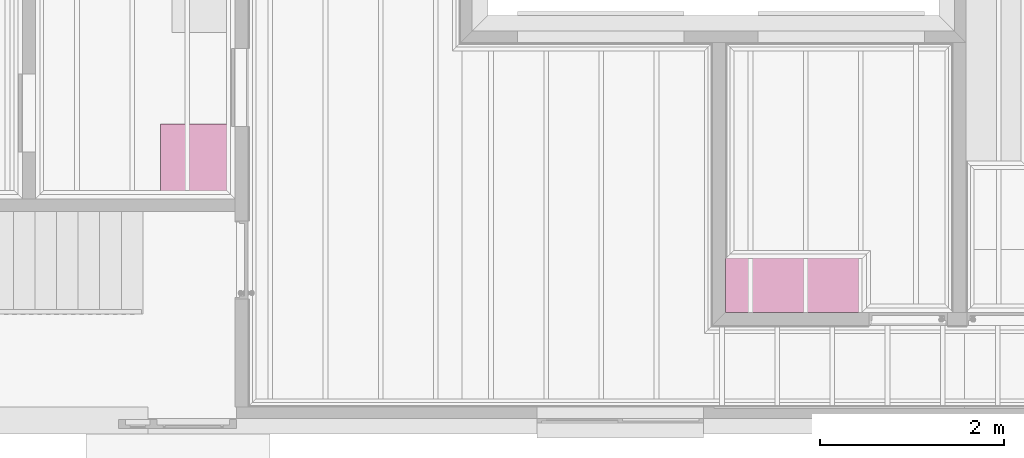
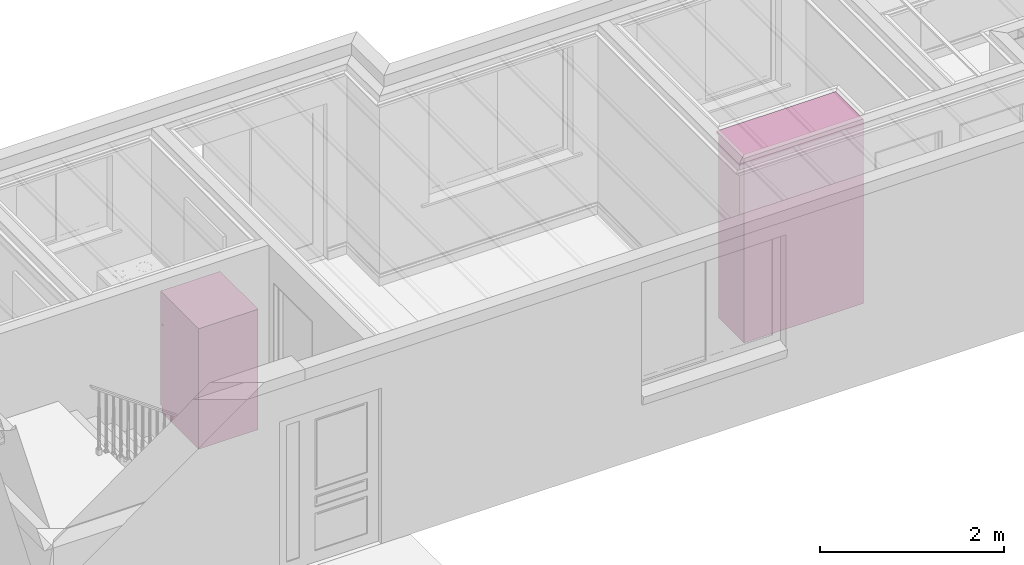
# One storey, part 14 of 15: 2 furnishings.
"""IFC2X3 building model written with IfcOpenShell, lengths in millimetres."""

from ifc_helpers import new_model, entity, si_unit, converted_unit, money_unit, direction, frame, origin_with_axes, place, context, subcontext, project, spatial, open_shell, faceted_brep, surface_model, source, transform, mapped, material, type_object, element, save


model = new_model("IFC2X3")

# Units and contexts
model_context = context("Model", 3, precision=1e-05, world=origin_with_axes(), true_north=direction((0.0, 1.0)))
body_context = subcontext(model_context, "Body", "Model", "MODEL_VIEW")
ifc_project = project(units=[si_unit("LENGTHUNIT", "METRE", prefix="MILLI"), si_unit("AREAUNIT", "SQUARE_METRE"), si_unit("VOLUMEUNIT", "CUBIC_METRE"), converted_unit("PLANEANGLEUNIT", "DEGREE", entity("IfcPlaneAngleMeasure", 0.0174532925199), si_unit("PLANEANGLEUNIT", "RADIAN"), dimensions=[0, 0, 0, 0, 0, 0, 0]), si_unit("SOLIDANGLEUNIT", "STERADIAN"), money_unit("AUD"), si_unit("TIMEUNIT", "SECOND"), si_unit("MASSUNIT", "GRAM"), si_unit("THERMODYNAMICTEMPERATUREUNIT", "DEGREE_CELSIUS"), si_unit("LUMINOUSINTENSITYUNIT", "LUMEN")], contexts=[model_context])

# Site, building, storey
site_placement = place(None, origin_with_axes())
site = spatial("IfcSite", under=ifc_project, at=site_placement, Name="Lot 1. East Hills", CompositionType="ELEMENT")
building_placement = place(site_placement, origin_with_axes())
building = spatial("IfcBuilding", under=site, at=building_placement, Name="Proposed Units 7 & 8", CompositionType="ELEMENT")
storey_placement = place(building_placement, frame((0.0, 0.0, 3202.0), z_axis=(0.0, 0.0, 1.0), x_axis=(1.0, 0.0, 0.0)))
storey = spatial("IfcBuildingStorey", under=building, at=storey_placement, Name="Ground", CompositionType="ELEMENT", Elevation=3202.0)

# Furnishings
ifc_material = material(Name="50 %")
furnishing_element_type_1 = type_object("IfcFurnishingElementType", Name="Cupboard 12")
shared_shape_1 = source(origin_with_axes(), body_context, "Body", "Brep", [
    faceted_brep([(1480.0, 600.656985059, 120.0), (1480.0, 600.656985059, 2400.0), (1480.0, 580.656985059, 2400.0), (1480.0, 580.656985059, 120.0), (20.0, 600.656985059, 120.0), (20.0, 600.656985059, 2400.0), (20.0, 580.656985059, 2400.0), (20.0, 580.656985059, 120.0)], [[[0, 1, 2, 3]], [[4, 5, 1, 0]], [[1, 5, 6, 2]], [[3, 2, 6, 7]], [[0, 3, 7, 4]], [[7, 6, 5, 4]]]),
    faceted_brep([(1500.0, 600.656985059, 100.0), (1500.0, 50.0, 100.0), (0.0, 50.0, 100.0), (0.0, 600.656985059, 100.0), (1500.0, 600.656985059, 2420.0), (1500.0, 50.0, 2420.0), (0.0, 50.0, 2420.0), (1480.0, 50.0, 120.0), (20.0, 50.0, 120.0), (20.0, 50.0, 2400.0), (1480.0, 50.0, 2400.0), (0.0, 600.656985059, 2420.0), (1480.0, 600.656985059, 120.0), (1480.0, 600.656985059, 2400.0), (20.0, 600.656985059, 2400.0), (20.0, 600.656985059, 120.0)], [[[0, 1, 2, 3]], [[4, 5, 1, 0]], [[1, 5, 6, 2], [7, 8, 9, 10]], [[3, 2, 6, 11]], [[0, 3, 11, 4], [12, 13, 14, 15]], [[11, 6, 5, 4]], [[15, 8, 7, 12]], [[14, 9, 8, 15]], [[13, 10, 9, 14]], [[12, 7, 10, 13]]]),
    faceted_brep([(0.0, 600.656985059, 2420.0), (0.0, 0.0, 2420.0), (0.0, 0.0, 2450.0), (0.0, 600.656985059, 2450.0), (1500.0, 600.656985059, 2420.0), (1500.0, 0.0, 2420.0), (1500.0, 0.0, 2450.0), (1500.0, 600.656985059, 2450.0)], [[[0, 1, 2, 3]], [[0, 4, 5, 1]], [[1, 5, 6, 2]], [[3, 2, 6, 7]], [[4, 0, 3, 7]], [[5, 4, 7, 6]]]),
    faceted_brep([(1460.0, 600.656985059, 0.0), (1460.0, 600.656985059, 100.0), (1460.0, 560.656985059, 100.0), (1460.0, 560.656985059, 0.0), (40.0, 600.656985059, 0.0), (40.0, 600.656985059, 100.0), (40.0, 560.656985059, 100.0), (40.0, 560.656985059, 0.0)], [[[0, 1, 2, 3]], [[4, 5, 1, 0]], [[1, 5, 6, 2]], [[3, 2, 6, 7]], [[0, 3, 7, 4]], [[7, 6, 5, 4]]]),
    faceted_brep([(1500.0, 600.656985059, 0.0), (1500.0, 600.656985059, 100.0), (1500.0, 50.0, 100.0), (1500.0, 50.0, 0.0), (1460.0, 600.656985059, 0.0), (1460.0, 600.656985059, 100.0), (1460.0, 50.0, 100.0), (1460.0, 50.0, 0.0)], [[[0, 1, 2, 3]], [[4, 5, 1, 0]], [[1, 5, 6, 2]], [[3, 2, 6, 7]], [[0, 3, 7, 4]], [[7, 6, 5, 4]]]),
    faceted_brep([(40.0, 600.656985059, 0.0), (40.0, 600.656985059, 100.0), (40.0, 50.0, 100.0), (40.0, 50.0, 0.0), (0.0, 600.656985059, 0.0), (0.0, 600.656985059, 100.0), (0.0, 50.0, 100.0), (0.0, 50.0, 0.0)], [[[0, 1, 2, 3]], [[4, 5, 1, 0]], [[1, 5, 6, 2]], [[3, 2, 6, 7]], [[0, 3, 7, 4]], [[7, 6, 5, 4]]]),
    faceted_brep([(1460.0, 130.0, 0.0), (1460.0, 130.0, 100.0), (1460.0, 90.0, 100.0), (1460.0, 90.0, 0.0), (40.0, 130.0, 0.0), (40.0, 130.0, 100.0), (40.0, 90.0, 100.0), (40.0, 90.0, 0.0)], [[[0, 1, 2, 3]], [[4, 5, 1, 0]], [[1, 5, 6, 2]], [[3, 2, 6, 7]], [[0, 3, 7, 4]], [[7, 6, 5, 4]]]),
    faceted_brep([(1480.0, 580.656985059, 866.666666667), (1480.0, 580.656985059, 886.666666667), (1480.0, 50.0, 886.666666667), (1480.0, 50.0, 866.666666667), (20.0, 580.656985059, 866.666666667), (20.0, 580.656985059, 886.666666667), (20.0, 50.0, 886.666666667), (20.0, 50.0, 866.666666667)], [[[0, 1, 2, 3]], [[4, 5, 1, 0]], [[1, 5, 6, 2]], [[3, 2, 6, 7]], [[0, 3, 7, 4]], [[7, 6, 5, 4]]]),
    faceted_brep([(1480.0, 580.656985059, 1633.33333333), (1480.0, 580.656985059, 1653.33333333), (1480.0, 50.0, 1653.33333333), (1480.0, 50.0, 1633.33333333), (20.0, 580.656985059, 1633.33333333), (20.0, 580.656985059, 1653.33333333), (20.0, 50.0, 1653.33333333), (20.0, 50.0, 1633.33333333)], [[[0, 1, 2, 3]], [[4, 5, 1, 0]], [[1, 5, 6, 2]], [[3, 2, 6, 7]], [[0, 3, 7, 4]], [[7, 6, 5, 4]]]),
    faceted_brep([(493.333333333, 580.656985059, 120.0), (493.333333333, 580.656985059, 2400.0), (513.333333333, 580.656985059, 2400.0), (513.333333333, 580.656985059, 120.0), (493.333333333, 50.0, 120.0), (493.333333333, 50.0, 2400.0), (513.333333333, 50.0, 2400.0), (513.333333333, 50.0, 120.0)], [[[0, 1, 2, 3]], [[4, 5, 1, 0]], [[1, 5, 6, 2]], [[3, 2, 6, 7]], [[0, 3, 7, 4]], [[7, 6, 5, 4]]]),
    faceted_brep([(1490.5, 50.0, 110.0), (997.166666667, 50.0, 110.0), (997.166666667, 50.0, 2410.0), (1490.5, 50.0, 2410.0), (1490.50000039, 40.0, 109.99999961), (997.166666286, 40.0, 109.99999961), (997.166666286, 40.0, 2410.00000036), (1490.50000039, 40.0, 2410.00000036), (1480.50000061, 30.0000002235, 119.999999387), (1007.16666606, 30.0000002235, 119.999999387), (1007.16666606, 30.0000002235, 2400.00000058), (1480.50000061, 30.0000002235, 2400.00000058)], [[[0, 1, 2, 3]], [[0, 4, 5, 1]], [[1, 5, 6, 2]], [[2, 6, 7, 3]], [[3, 7, 4, 0]], [[4, 8, 9, 5]], [[5, 9, 10, 6]], [[6, 10, 11, 7]], [[7, 11, 8, 4]], [[10, 9, 8, 11]]]),
    faceted_brep([(997.166666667, 50.0, 110.0), (503.833333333, 50.0, 110.0), (503.833333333, 50.0, 2410.0), (997.166666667, 50.0, 2410.0), (997.166667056, 40.0, 109.99999961), (503.833332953, 40.0, 109.99999961), (503.833332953, 40.0, 2410.00000036), (997.166667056, 40.0, 2410.00000036), (987.16666728, 30.0000002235, 119.999999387), (513.833332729, 30.0000002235, 119.999999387), (513.833332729, 30.0000002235, 2400.00000058), (987.16666728, 30.0000002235, 2400.00000058)], [[[0, 1, 2, 3]], [[0, 4, 5, 1]], [[1, 5, 6, 2]], [[2, 6, 7, 3]], [[3, 7, 4, 0]], [[4, 8, 9, 5]], [[5, 9, 10, 6]], [[6, 10, 11, 7]], [[7, 11, 8, 4]], [[10, 9, 8, 11]]]),
    faceted_brep([(503.833333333, 50.0, 110.0), (10.5, 50.0, 110.0), (10.5, 50.0, 2410.0), (503.833333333, 50.0, 2410.0), (503.833333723, 40.0, 109.99999961), (10.4999996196, 40.0, 109.99999961), (10.4999996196, 40.0, 2410.00000036), (503.833333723, 40.0, 2410.00000036), (493.833333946, 30.0000002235, 119.999999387), (20.4999993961, 30.0000002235, 119.999999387), (20.4999993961, 30.0000002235, 2400.00000058), (493.833333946, 30.0000002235, 2400.00000058)], [[[0, 1, 2, 3]], [[0, 4, 5, 1]], [[1, 5, 6, 2]], [[2, 6, 7, 3]], [[3, 7, 4, 0]], [[4, 8, 9, 5]], [[5, 9, 10, 6]], [[6, 10, 11, 7]], [[7, 11, 8, 4]], [[10, 9, 8, 11]]]),
    faceted_brep([(442.941028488, 30.0, 954.0), (441.333333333, 30.0, 960.0), (442.941028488, 30.0, 966.0), (447.333333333, 30.0, 970.392304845), (453.333333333, 30.0, 972.0), (459.333333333, 30.0, 970.392304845), (463.725638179, 30.0, 966.0), (465.333333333, 30.0, 960.0), (463.725638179, 30.0, 954.0), (459.333333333, 30.0, 949.607695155), (453.333333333, 30.0, 948.0), (447.333333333, 30.0, 949.607695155), (442.941028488, 5.0, 954.0), (441.333333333, 5.0, 960.0), (442.941028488, 5.0, 966.0), (447.333333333, 5.0, 970.392304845), (453.333333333, 5.0, 972.0), (459.333333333, 5.0, 970.392304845), (463.725638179, 5.0, 966.0), (465.333333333, 5.0, 960.0), (463.725638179, 5.0, 954.0), (459.333333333, 5.0, 949.607695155), (453.333333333, 5.0, 948.0), (447.333333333, 5.0, 949.607695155)], [[[0, 1, 2, 3, 4, 5, 6, 7, 8, 9, 10, 11]], [[0, 12, 13, 1]], [[1, 13, 14, 2]], [[2, 14, 15, 3]], [[3, 15, 16, 4]], [[4, 16, 17, 5]], [[5, 17, 18, 6]], [[6, 18, 19, 7]], [[7, 19, 20, 8]], [[8, 20, 21, 9]], [[9, 21, 22, 10]], [[10, 22, 23, 11]], [[11, 23, 12, 0]], [[12, 23, 22, 21, 20, 19, 18, 17, 16, 15, 14, 13]]]),
    faceted_brep([(1036.27436182, 30.0, 954.0), (1034.66666667, 30.0, 960.0), (1036.27436182, 30.0, 966.0), (1040.66666667, 30.0, 970.392304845), (1046.66666667, 30.0, 972.0), (1052.66666667, 30.0, 970.392304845), (1057.05897151, 30.0, 966.0), (1058.66666667, 30.0, 960.0), (1057.05897151, 30.0, 954.0), (1052.66666667, 30.0, 949.607695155), (1046.66666667, 30.0, 948.0), (1040.66666667, 30.0, 949.607695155), (1036.27436182, 5.0, 954.0), (1034.66666667, 5.0, 960.0), (1036.27436182, 5.0, 966.0), (1040.66666667, 5.0, 970.392304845), (1046.66666667, 5.0, 972.0), (1052.66666667, 5.0, 970.392304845), (1057.05897151, 5.0, 966.0), (1058.66666667, 5.0, 960.0), (1057.05897151, 5.0, 954.0), (1052.66666667, 5.0, 949.607695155), (1046.66666667, 5.0, 948.0), (1040.66666667, 5.0, 949.607695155)], [[[0, 1, 2, 3, 4, 5, 6, 7, 8, 9, 10, 11]], [[0, 12, 13, 1]], [[1, 13, 14, 2]], [[2, 14, 15, 3]], [[3, 15, 16, 4]], [[4, 16, 17, 5]], [[5, 17, 18, 6]], [[6, 18, 19, 7]], [[7, 19, 20, 8]], [[8, 20, 21, 9]], [[9, 21, 22, 10]], [[10, 22, 23, 11]], [[11, 23, 12, 0]], [[12, 23, 22, 21, 20, 19, 18, 17, 16, 15, 14, 13]]]),
    faceted_brep([(957.058971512, 30.0, 954.0), (952.666666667, 30.0, 949.607695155), (946.666666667, 30.0, 948.0), (940.666666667, 30.0, 949.607695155), (936.274361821, 30.0, 954.0), (934.666666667, 30.0, 960.0), (936.274361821, 30.0, 966.0), (940.666666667, 30.0, 970.392304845), (946.666666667, 30.0, 972.0), (952.666666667, 30.0, 970.392304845), (957.058971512, 30.0, 966.0), (958.666666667, 30.0, 960.0), (957.058971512, 5.0, 954.0), (952.666666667, 5.0, 949.607695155), (946.666666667, 5.0, 948.0), (940.666666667, 5.0, 949.607695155), (936.274361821, 5.0, 954.0), (934.666666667, 5.0, 960.0), (936.274361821, 5.0, 966.0), (940.666666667, 5.0, 970.392304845), (946.666666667, 5.0, 972.0), (952.666666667, 5.0, 970.392304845), (957.058971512, 5.0, 966.0), (958.666666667, 5.0, 960.0)], [[[0, 1, 2, 3, 4, 5, 6, 7, 8, 9, 10, 11]], [[1, 0, 12, 13]], [[2, 1, 13, 14]], [[3, 2, 14, 15]], [[4, 3, 15, 16]], [[5, 4, 16, 17]], [[6, 5, 17, 18]], [[7, 6, 18, 19]], [[8, 7, 19, 20]], [[9, 8, 20, 21]], [[10, 9, 21, 22]], [[11, 10, 22, 23]], [[0, 11, 23, 12]], [[12, 23, 22, 21, 20, 19, 18, 17, 16, 15, 14, 13]]]),
])
furnishing_1_placement = place(storey_placement, frame((11059.999999, 1923.65698491, 0.0), z_axis=(0.0, 0.0, 1.0), x_axis=(-1.0, 0.0, 0.0)))
element("IfcFurnishingElement", 1, at=furnishing_1_placement, inside=storey, type_object=furnishing_element_type_1, material=ifc_material, Name="U7_WAR02 - Cupboard 12 - object -", context=body_context, shape_type="MappedRepresentation", body=[
    mapped(shared_shape_1, transform((0.0, 0.0, 0.0))),
])
furnishing_element_type_2 = type_object("IfcFurnishingElementType", Name="Refrigerator 12")
shared_shape_2 = source(origin_with_axes(), body_context, "Body", "SurfaceModel", [
    faceted_brep([(0.0, 0.0, 1575.0), (0.0, 0.0, 1600.0), (-747.612704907, 0.0, 1600.0), (-747.612704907, 0.0, 1575.0), (0.0, 829.588903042, 1575.0), (0.0, 829.588903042, 1600.0), (-747.612704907, 829.588903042, 1600.0), (-747.612704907, 829.588903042, 1575.0)], [[[0, 1, 2, 3]], [[4, 5, 1, 0]], [[1, 5, 6, 2]], [[3, 2, 6, 7]], [[0, 3, 7, 4]], [[7, 6, 5, 4]]]),
    faceted_brep([(0.0, 65.0, 0.0), (0.0, 65.0, 1575.0), (-747.612704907, 65.0, 1575.0), (-747.612704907, 65.0, 0.0), (0.0, 829.588903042, 0.0), (0.0, 829.588903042, 1575.0), (-747.612704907, 829.588903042, 1575.0), (-747.612704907, 829.588903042, 0.0)], [[[0, 1, 2, 3]], [[4, 5, 1, 0]], [[1, 5, 6, 2]], [[3, 2, 6, 7]], [[0, 3, 7, 4]], [[7, 6, 5, 4]]]),
    faceted_brep([(0.0, 30.0, 0.0), (0.0, 30.0, 90.0), (-747.612704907, 30.0, 90.0), (-747.612704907, 30.0, 0.0), (0.0, 70.0, 0.0), (0.0, 70.0, 90.0), (-747.612704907, 70.0, 90.0), (-747.612704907, 70.0, 0.0)], [[[0, 1, 2, 3]], [[4, 5, 1, 0]], [[1, 5, 6, 2]], [[3, 2, 6, 7]], [[0, 3, 7, 4]], [[7, 6, 5, 4]]]),
    faceted_brep([(0.0, 60.0, 90.0), (0.0, 0.0, 90.0), (-747.612704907, 0.0, 90.0), (-747.612704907, 60.0, 90.0), (0.0, 60.0, 1169.5), (0.0, 0.0, 1169.5), (-747.612704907, 0.0, 1169.5), (-747.612704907, 60.0, 1169.5)], [[[0, 1, 2, 3]], [[4, 5, 1, 0]], [[1, 5, 6, 2]], [[3, 2, 6, 7]], [[0, 3, 7, 4]], [[7, 6, 5, 4]]]),
    faceted_brep([(0.0, 60.0, 1174.5), (0.0, 0.0, 1174.5), (-747.612704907, 0.0, 1174.5), (-747.612704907, 60.0, 1174.5), (0.0, 60.0, 1574.5), (0.0, 0.0, 1574.5), (-747.612704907, 0.0, 1574.5), (-747.612704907, 60.0, 1574.5)], [[[0, 1, 2, 3]], [[4, 5, 1, 0]], [[1, 5, 6, 2]], [[3, 2, 6, 7]], [[0, 3, 7, 4]], [[7, 6, 5, 4]]]),
    surface_model("IfcShellBasedSurfaceModel", [(-747.612704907, -30.0, 264.5), (-747.612704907, 0.0, 264.5), (-747.612704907, 0.0, 1169.5), (-747.612704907, -30.0, 1169.5)], [open_shell([[[0, 1, 2, 3]]])]),
    surface_model("IfcShellBasedSurfaceModel", [(-747.612704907, -30.0, 264.5), (-717.612704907, -30.0, 264.5), (-717.612704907, -30.0, 1169.5), (-747.612704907, -30.0, 1169.5)], [open_shell([[[0, 1, 2, 3]]])]),
    surface_model("IfcShellBasedSurfaceModel", [(-747.612704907, -30.0, 1174.5), (-747.612704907, 0.0, 1174.5), (-747.612704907, 0.0, 1374.5), (-747.612704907, -30.0, 1374.5)], [open_shell([[[0, 1, 2, 3]]])]),
    surface_model("IfcShellBasedSurfaceModel", [(-747.612704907, -30.0, 1174.5), (-717.612704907, -30.0, 1174.5), (-717.612704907, -30.0, 1374.5), (-747.612704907, -30.0, 1374.5)], [open_shell([[[0, 1, 2, 3]]])]),
])
furnishing_2_placement = place(storey_placement, frame((3416.28415664, 3372.58890371, 0.0), z_axis=(0.0, 0.0, 1.0), x_axis=(-1.0, 0.0, 0.0)))
element("IfcFurnishingElement", 2, at=furnishing_2_placement, inside=storey, type_object=furnishing_element_type_2, material=ifc_material, Name="U7_FRIDGE - Refrigerator 12 - object -", context=body_context, shape_type="MappedRepresentation", body=[
    mapped(shared_shape_2, transform((0.0, 0.0, 0.0))),
])

save(model, "model.ifc")
